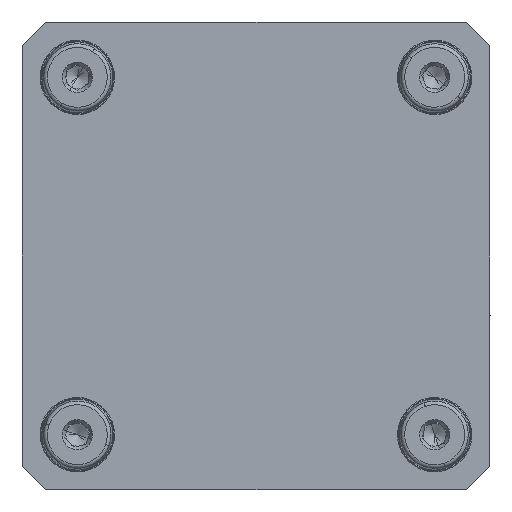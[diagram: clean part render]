
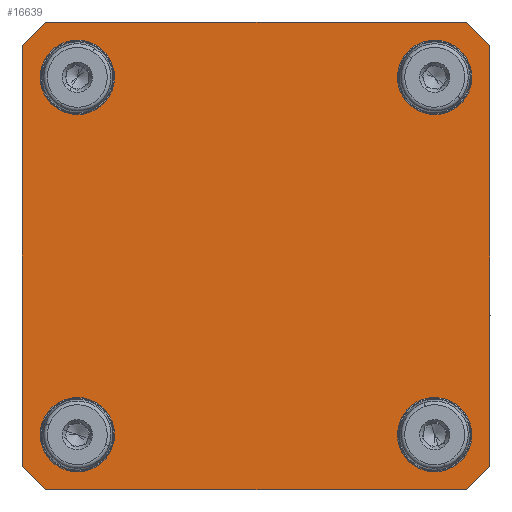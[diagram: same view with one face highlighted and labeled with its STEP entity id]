
A CAD part, front view. The second image highlights one B-rep face of the part: STEP entity #16639.
In plain terms, the highlighted planar face has unit normal (0, -1, 0).
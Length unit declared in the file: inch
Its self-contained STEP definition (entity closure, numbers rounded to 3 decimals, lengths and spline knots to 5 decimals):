
#173 = FACE_BOUND ( 'NONE', #12900, .T. ) ;
#350 = VERTEX_POINT ( 'NONE', #45227 ) ;
#458 = EDGE_LOOP ( 'NONE', ( #10262, #23018 ) ) ;
#2427 = CARTESIAN_POINT ( 'NONE',  ( -1.88976, 0., -1.88976 ) ) ;
#3136 = EDGE_CURVE ( 'NONE', #16589, #28142, #31007, .T. ) ;
#3282 = DIRECTION ( 'NONE',  ( 0., -1., 0. ) ) ;
#3395 = EDGE_CURVE ( 'NONE', #32278, #12644, #40284, .T. ) ;
#3664 = VERTEX_POINT ( 'NONE', #28340 ) ;
#4826 = AXIS2_PLACEMENT_3D ( 'NONE', #2427, #17125, #31703 ) ;
#5044 = ORIENTED_EDGE ( 'NONE', *, *, #34680, .F. ) ;
#5131 = EDGE_CURVE ( 'NONE', #46391, #350, #35648, .T. ) ;
#5388 = AXIS2_PLACEMENT_3D ( 'NONE', #15052, #3282, #14427 ) ;
#6709 = VERTEX_POINT ( 'NONE', #47935 ) ;
#6880 = CARTESIAN_POINT ( 'NONE',  ( -2.475, 0., -2.475 ) ) ;
#7070 = CARTESIAN_POINT ( 'NONE',  ( -1.88976, 0., 1.88976 ) ) ;
#7843 = DIRECTION ( 'NONE',  ( 0., -1., 0. ) ) ;
#8889 = DIRECTION ( 'NONE',  ( 0.707, 0., 0.707 ) ) ;
#8942 = ORIENTED_EDGE ( 'NONE', *, *, #10486, .F. ) ;
#9011 = CIRCLE ( 'NONE', #21324, 0.31495 ) ;
#10024 = FACE_BOUND ( 'NONE', #45967, .T. ) ;
#10262 = ORIENTED_EDGE ( 'NONE', *, *, #27681, .F. ) ;
#10486 = EDGE_CURVE ( 'NONE', #34835, #22622, #17218, .T. ) ;
#10781 = VECTOR ( 'NONE', #11942, 39.37008 ) ;
#11341 = ORIENTED_EDGE ( 'NONE', *, *, #20663, .F. ) ;
#11412 = CARTESIAN_POINT ( 'NONE',  ( -1.88976, 0., -1.88976 ) ) ;
#11558 = CARTESIAN_POINT ( 'NONE',  ( -1.88976, 0., 1.88976 ) ) ;
#11942 = DIRECTION ( 'NONE',  ( 1., 0., 0. ) ) ;
#12291 = EDGE_CURVE ( 'NONE', #6709, #16669, #22843, .T. ) ;
#12475 = VERTEX_POINT ( 'NONE', #22865 ) ;
#12644 = VERTEX_POINT ( 'NONE', #46308 ) ;
#12775 = CARTESIAN_POINT ( 'NONE',  ( 2.225, 0., -2.475 ) ) ;
#12900 = EDGE_LOOP ( 'NONE', ( #17783, #11341 ) ) ;
#13239 = ORIENTED_EDGE ( 'NONE', *, *, #3136, .F. ) ;
#13437 = VECTOR ( 'NONE', #27252, 39.37008 ) ;
#13733 = CARTESIAN_POINT ( 'NONE',  ( 0., 0., 0. ) ) ;
#13874 = LINE ( 'NONE', #25724, #42269 ) ;
#13937 = CIRCLE ( 'NONE', #23855, 0.31495 ) ;
#13964 = VERTEX_POINT ( 'NONE', #23195 ) ;
#13984 = ORIENTED_EDGE ( 'NONE', *, *, #5131, .F. ) ;
#14254 = VECTOR ( 'NONE', #25182, 39.37008 ) ;
#14427 = DIRECTION ( 'NONE',  ( 0., 0., 1. ) ) ;
#14647 = DIRECTION ( 'NONE',  ( 0., 0., 1. ) ) ;
#14662 = DIRECTION ( 'NONE',  ( 0., -1., 0. ) ) ;
#14691 = VERTEX_POINT ( 'NONE', #27431 ) ;
#14918 = EDGE_CURVE ( 'NONE', #13964, #35316, #13937, .T. ) ;
#15052 = CARTESIAN_POINT ( 'NONE',  ( 1.88976, 0., 1.88976 ) ) ;
#15766 = DIRECTION ( 'NONE',  ( 0., 0., -1. ) ) ;
#16465 = AXIS2_PLACEMENT_3D ( 'NONE', #11412, #40904, #25634 ) ;
#16589 = VERTEX_POINT ( 'NONE', #24706 ) ;
#16618 = VERTEX_POINT ( 'NONE', #36247 ) ;
#16639 = ADVANCED_FACE ( 'NONE', ( #10024, #23870, #27327, #173, #27897 ), #28259, .F. ) ;
#16669 = VERTEX_POINT ( 'NONE', #25506 ) ;
#16869 = EDGE_CURVE ( 'NONE', #3664, #12475, #31941, .T. ) ;
#16908 = CARTESIAN_POINT ( 'NONE',  ( 1.88976, 0., 1.57481 ) ) ;
#17125 = DIRECTION ( 'NONE',  ( 0., -1., 0. ) ) ;
#17218 = CIRCLE ( 'NONE', #38897, 0.31495 ) ;
#17783 = ORIENTED_EDGE ( 'NONE', *, *, #37435, .F. ) ;
#20663 = EDGE_CURVE ( 'NONE', #14691, #16618, #9011, .T. ) ;
#20980 = AXIS2_PLACEMENT_3D ( 'NONE', #11558, #7843, #15766 ) ;
#21324 = AXIS2_PLACEMENT_3D ( 'NONE', #7070, #36711, #44135 ) ;
#22144 = CARTESIAN_POINT ( 'NONE',  ( -2.475, 0., 2.475 ) ) ;
#22414 = DIRECTION ( 'NONE',  ( 0.707, 0., -0.707 ) ) ;
#22622 = VERTEX_POINT ( 'NONE', #16908 ) ;
#22843 = LINE ( 'NONE', #6880, #24612 ) ;
#22865 = CARTESIAN_POINT ( 'NONE',  ( -2.225, 0., -2.475 ) ) ;
#23018 = ORIENTED_EDGE ( 'NONE', *, *, #3395, .F. ) ;
#23073 = VECTOR ( 'NONE', #22414, 39.37008 ) ;
#23085 = CIRCLE ( 'NONE', #37950, 0.31495 ) ;
#23160 = CARTESIAN_POINT ( 'NONE',  ( 1.88976, 0., -1.88976 ) ) ;
#23195 = CARTESIAN_POINT ( 'NONE',  ( 1.88976, 0., -1.57481 ) ) ;
#23527 = ORIENTED_EDGE ( 'NONE', *, *, #30113, .T. ) ;
#23801 = DIRECTION ( 'NONE',  ( 0., 0., 1. ) ) ;
#23855 = AXIS2_PLACEMENT_3D ( 'NONE', #23160, #38425, #34325 ) ;
#23870 = FACE_BOUND ( 'NONE', #458, .T. ) ;
#24237 = LINE ( 'NONE', #25939, #23073 ) ;
#24612 = VECTOR ( 'NONE', #14647, 39.37008 ) ;
#24706 = CARTESIAN_POINT ( 'NONE',  ( -2.225, 0., 2.475 ) ) ;
#25182 = DIRECTION ( 'NONE',  ( 0., 0., -1. ) ) ;
#25373 = CIRCLE ( 'NONE', #4826, 0.31495 ) ;
#25506 = CARTESIAN_POINT ( 'NONE',  ( -2.475, 0., 2.225 ) ) ;
#25632 = DIRECTION ( 'NONE',  ( 0., 0., -1. ) ) ;
#25634 = DIRECTION ( 'NONE',  ( 0., 0., 1. ) ) ;
#25656 = EDGE_CURVE ( 'NONE', #22622, #34835, #31788, .T. ) ;
#25724 = CARTESIAN_POINT ( 'NONE',  ( 2.475, 0., 2.225 ) ) ;
#25939 = CARTESIAN_POINT ( 'NONE',  ( -2.475, 0., -2.225 ) ) ;
#26104 = EDGE_LOOP ( 'NONE', ( #5044, #41977 ) ) ;
#27252 = DIRECTION ( 'NONE',  ( -1., 0., 0. ) ) ;
#27327 = FACE_BOUND ( 'NONE', #26104, .T. ) ;
#27402 = EDGE_LOOP ( 'NONE', ( #28037, #23527, #13984, #36036, #13239, #45001, #42120, #33857 ) ) ;
#27431 = CARTESIAN_POINT ( 'NONE',  ( -1.88976, 0., 2.20471 ) ) ;
#27503 = EDGE_CURVE ( 'NONE', #6709, #12475, #24237, .T. ) ;
#27681 = EDGE_CURVE ( 'NONE', #12644, #32278, #25373, .T. ) ;
#27897 = FACE_OUTER_BOUND ( 'NONE', #27402, .T. ) ;
#28037 = ORIENTED_EDGE ( 'NONE', *, *, #16869, .F. ) ;
#28142 = VERTEX_POINT ( 'NONE', #34135 ) ;
#28259 = PLANE ( 'NONE',  #40371 ) ;
#28340 = CARTESIAN_POINT ( 'NONE',  ( 2.225, 0., -2.475 ) ) ;
#28744 = DIRECTION ( 'NONE',  ( 0., 0., 1. ) ) ;
#30113 = EDGE_CURVE ( 'NONE', #3664, #350, #37872, .T. ) ;
#30924 = CARTESIAN_POINT ( 'NONE',  ( 1.88976, 0., 1.88976 ) ) ;
#31007 = LINE ( 'NONE', #22144, #10781 ) ;
#31703 = DIRECTION ( 'NONE',  ( 0., 0., 1. ) ) ;
#31788 = CIRCLE ( 'NONE', #5388, 0.31495 ) ;
#31837 = ORIENTED_EDGE ( 'NONE', *, *, #25656, .F. ) ;
#31941 = LINE ( 'NONE', #34727, #13437 ) ;
#32278 = VERTEX_POINT ( 'NONE', #33912 ) ;
#32793 = CARTESIAN_POINT ( 'NONE',  ( 2.475, 0., -2.475 ) ) ;
#33715 = CARTESIAN_POINT ( 'NONE',  ( 1.88976, 0., 2.20471 ) ) ;
#33857 = ORIENTED_EDGE ( 'NONE', *, *, #27503, .T. ) ;
#33912 = CARTESIAN_POINT ( 'NONE',  ( -1.88976, 0., -1.57481 ) ) ;
#34135 = CARTESIAN_POINT ( 'NONE',  ( 2.225, 0., 2.475 ) ) ;
#34252 = LINE ( 'NONE', #34505, #35430 ) ;
#34325 = DIRECTION ( 'NONE',  ( 0., 0., -1. ) ) ;
#34501 = CARTESIAN_POINT ( 'NONE',  ( 1.88976, 0., -2.20471 ) ) ;
#34505 = CARTESIAN_POINT ( 'NONE',  ( -2.225, 0., 2.475 ) ) ;
#34680 = EDGE_CURVE ( 'NONE', #35316, #13964, #23085, .T. ) ;
#34727 = CARTESIAN_POINT ( 'NONE',  ( -2.475, 0., -2.475 ) ) ;
#34835 = VERTEX_POINT ( 'NONE', #33715 ) ;
#35316 = VERTEX_POINT ( 'NONE', #34501 ) ;
#35430 = VECTOR ( 'NONE', #38272, 39.37008 ) ;
#35648 = LINE ( 'NONE', #32793, #14254 ) ;
#36036 = ORIENTED_EDGE ( 'NONE', *, *, #41166, .T. ) ;
#36078 = DIRECTION ( 'NONE',  ( 0., 1., 0. ) ) ;
#36247 = CARTESIAN_POINT ( 'NONE',  ( -1.88976, 0., 1.57481 ) ) ;
#36711 = DIRECTION ( 'NONE',  ( 0., -1., 0. ) ) ;
#37435 = EDGE_CURVE ( 'NONE', #16618, #14691, #37957, .T. ) ;
#37872 = LINE ( 'NONE', #12775, #46509 ) ;
#37950 = AXIS2_PLACEMENT_3D ( 'NONE', #47524, #14662, #25632 ) ;
#37957 = CIRCLE ( 'NONE', #20980, 0.31495 ) ;
#38272 = DIRECTION ( 'NONE',  ( -0.707, 0., -0.707 ) ) ;
#38425 = DIRECTION ( 'NONE',  ( 0., -1., 0. ) ) ;
#38897 = AXIS2_PLACEMENT_3D ( 'NONE', #30924, #45813, #23801 ) ;
#39986 = EDGE_CURVE ( 'NONE', #16589, #16669, #34252, .T. ) ;
#40284 = CIRCLE ( 'NONE', #16465, 0.31495 ) ;
#40371 = AXIS2_PLACEMENT_3D ( 'NONE', #13733, #36078, #28744 ) ;
#40904 = DIRECTION ( 'NONE',  ( 0., -1., 0. ) ) ;
#41166 = EDGE_CURVE ( 'NONE', #46391, #28142, #13874, .T. ) ;
#41709 = CARTESIAN_POINT ( 'NONE',  ( 2.475, 0., 2.225 ) ) ;
#41977 = ORIENTED_EDGE ( 'NONE', *, *, #14918, .F. ) ;
#42120 = ORIENTED_EDGE ( 'NONE', *, *, #12291, .F. ) ;
#42269 = VECTOR ( 'NONE', #45145, 39.37008 ) ;
#44135 = DIRECTION ( 'NONE',  ( 0., 0., -1. ) ) ;
#45001 = ORIENTED_EDGE ( 'NONE', *, *, #39986, .T. ) ;
#45145 = DIRECTION ( 'NONE',  ( -0.707, 0., 0.707 ) ) ;
#45227 = CARTESIAN_POINT ( 'NONE',  ( 2.475, 0., -2.225 ) ) ;
#45813 = DIRECTION ( 'NONE',  ( 0., -1., 0. ) ) ;
#45967 = EDGE_LOOP ( 'NONE', ( #31837, #8942 ) ) ;
#46308 = CARTESIAN_POINT ( 'NONE',  ( -1.88976, 0., -2.20471 ) ) ;
#46391 = VERTEX_POINT ( 'NONE', #41709 ) ;
#46509 = VECTOR ( 'NONE', #8889, 39.37008 ) ;
#47524 = CARTESIAN_POINT ( 'NONE',  ( 1.88976, 0., -1.88976 ) ) ;
#47935 = CARTESIAN_POINT ( 'NONE',  ( -2.475, 0., -2.225 ) ) ;
